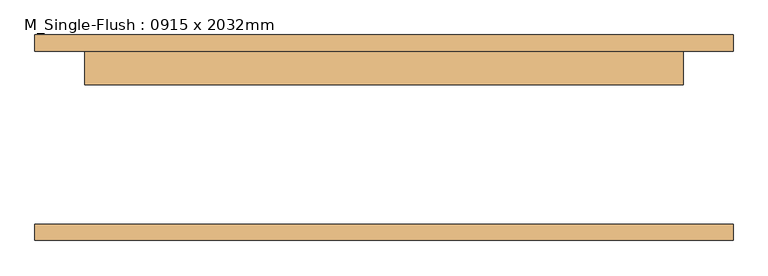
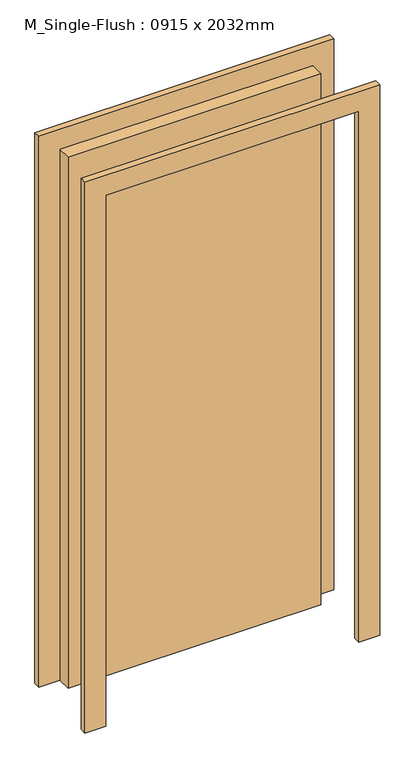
"""IFC4 building model written with IfcOpenShell, lengths in millimetres: door geometry, M_Single-Flush : 0915 x 2032mm."""

from ifc_helpers import new_model, si_unit, frame, origin, origin_with_axes, place, context, project, spatial, polyline, outline, extrude, source, transform, mapped, element, save


def m_single_flush_0915_x_2032mm_d69fe862(model_context):
    return source(origin(), model_context, "Body", "SweptSolid", [
        extrude(outline(polyline([(2108.0, -533.5), (0.0, -533.5), (0.0, -457.5), (2032.0, -457.5), (2032.0, 457.5), (0.0, 457.5), (0.0, 533.5), (2108.0, 533.5), (2108.0, -533.5)])), frame((0.0, 132.0, 0.0), z_axis=(0.0, 1.0, 0.0), x_axis=(0.0, 0.0, 1.0)), (0.0, 0.0, 1.0), 25.0),
        extrude(outline(polyline([(2108.0, 533.5), (2108.0, -533.5), (0.0, -533.5), (0.0, -457.5), (2032.0, -457.5), (2032.0, 457.5), (0.0, 457.5), (0.0, 533.5), (2108.0, 533.5)])), frame((0.0, -157.0, 0.0), z_axis=(0.0, 1.0, 0.0), x_axis=(0.0, 0.0, 1.0)), (0.0, 0.0, 1.0), 25.0),
        extrude(outline(polyline([(457.5, 81.0), (-457.5, 81.0), (-457.5, 132.0), (457.5, 132.0), (457.5, 81.0)])), origin_with_axes(), (0.0, 0.0, 1.0), 2032.0),
    ])


if __name__ == "__main__":
    model = new_model("IFC4")
    model_context = context("Model", 3, world=origin())
    ifc_project = project(units=[si_unit("LENGTHUNIT", "METRE", prefix="MILLI")], contexts=[model_context])
    site = spatial("IfcSite", under=ifc_project)
    building = spatial("IfcBuilding", under=site)
    placement = place(None, origin())
    m_single_flush_0915_x_2032mm_shape = m_single_flush_0915_x_2032mm_d69fe862(model_context)
    element("IfcDoor", 1, ObjectType="M_Single-Flush : 0915 x 2032mm", at=placement, inside=building, context=model_context, shape_type="MappedRepresentation", body=[
        mapped(m_single_flush_0915_x_2032mm_shape, transform((0.0, 0.0, 0.0), x_axis=(1.0, 0.0, 0.0), y_axis=(0.0, 1.0, 0.0), z_axis=(0.0, 0.0, 1.0))),
    ])
    save(model, "model.ifc")
